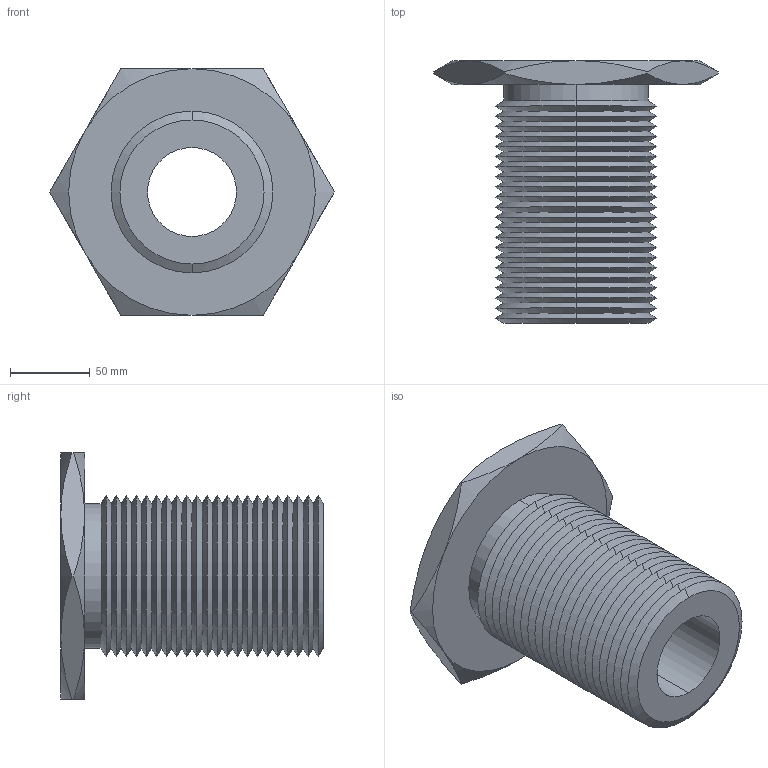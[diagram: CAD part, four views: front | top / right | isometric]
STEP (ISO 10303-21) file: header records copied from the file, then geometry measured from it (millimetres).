
FILE_DESCRIPTION (( 'STEP AP203' ), '1' );
FILE_NAME ('63302.W5400_M56x5,5.step', '2013-12-08T12:01:16', ( 'User' ), ( '' ), 'SwSTEP 2.0', 'SolidWorks 2009', '' );
FILE_SCHEMA (( 'CONFIG_CONTROL_DESIGN' ));
Length unit declared in the file: millimetre
Products named in the file (1): 63302.W5400_M56x5,5
Bounding box: 178.98 x 165 x 155 mm (x, y, z)
Volume: 975593.1 mm3; surface area: 158576.3 mm2
Topology: 1 solids, 1 shells, 115 faces, 234 edges, 122 vertices
Faces by surface type: cone 102, plane 9, cylinder 4
Entity records: 3179 total; most frequent: CARTESIAN_POINT 696, DIRECTION 552, ORIENTED_EDGE 468, EDGE_CURVE 234, AXIS2_PLACEMENT_3D 226, VERTEX_POINT 122, EDGE_LOOP 118, ADVANCED_FACE 115
